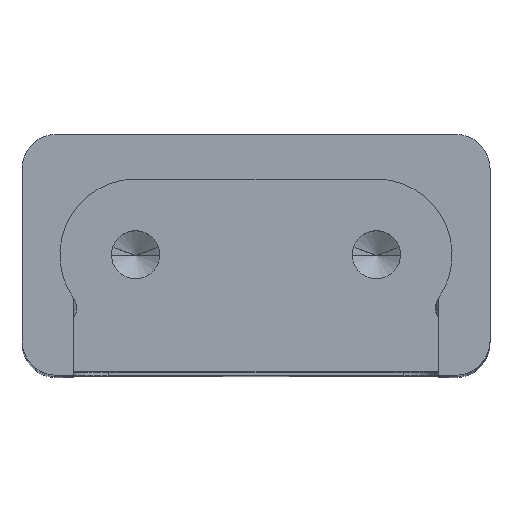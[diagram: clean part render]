
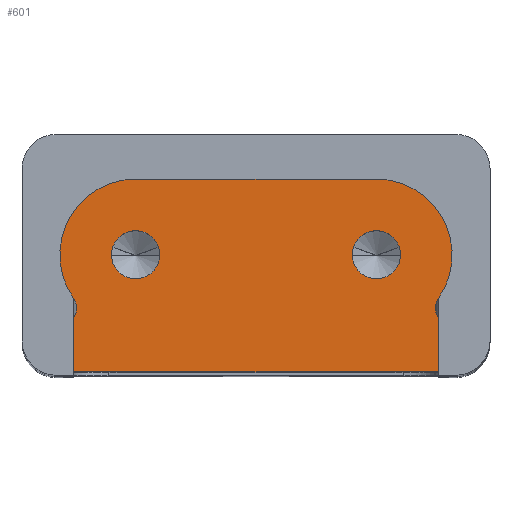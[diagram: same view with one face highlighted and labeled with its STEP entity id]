
A CAD part, top view. The second image highlights one B-rep face of the part: STEP entity #601.
In plain terms, the highlighted planar face has unit normal (0, 0, 1) as drawn and (0, 1, 0) by its records, which use the part's own axes.
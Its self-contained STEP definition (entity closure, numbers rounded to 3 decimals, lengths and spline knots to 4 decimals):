
#146=FACE_BOUND('',#1065,.T.);
#147=FACE_BOUND('',#1066,.T.);
#148=FACE_BOUND('',#1067,.T.);
#431=CIRCLE('',#3786,0.35);
#432=CIRCLE('',#3787,0.35);
#433=CIRCLE('',#3788,1.1);
#434=CIRCLE('',#3789,0.25);
#435=CIRCLE('',#3790,0.25);
#436=CIRCLE('',#3791,1.1);
#601=ADVANCED_FACE('',(#146,#147,#148),#737,.F.);
#737=PLANE('',#3792);
#1065=EDGE_LOOP('',(#1762));
#1066=EDGE_LOOP('',(#1763));
#1067=EDGE_LOOP('',(#1764,#1765,#1766,#1767,#1768,#1769,#1770,#1771));
#1762=ORIENTED_EDGE('',*,*,#2838,.T.);
#1763=ORIENTED_EDGE('',*,*,#2839,.T.);
#1764=ORIENTED_EDGE('',*,*,#2790,.F.);
#1765=ORIENTED_EDGE('',*,*,#2840,.T.);
#1766=ORIENTED_EDGE('',*,*,#2841,.F.);
#1767=ORIENTED_EDGE('',*,*,#2837,.T.);
#1768=ORIENTED_EDGE('',*,*,#2842,.F.);
#1769=ORIENTED_EDGE('',*,*,#2830,.F.);
#1770=ORIENTED_EDGE('',*,*,#2843,.F.);
#1771=ORIENTED_EDGE('',*,*,#2844,.F.);
#2382=VERTEX_POINT('',#5619);
#2383=VERTEX_POINT('',#5621);
#2416=VERTEX_POINT('',#5704);
#2417=VERTEX_POINT('',#5706);
#2419=VERTEX_POINT('',#5712);
#2421=VERTEX_POINT('',#5717);
#2422=VERTEX_POINT('',#5721);
#2423=VERTEX_POINT('',#5723);
#2424=VERTEX_POINT('',#5725);
#2425=VERTEX_POINT('',#5729);
#2790=EDGE_CURVE('',#2382,#2383,#3170,.T.);
#2830=EDGE_CURVE('',#2416,#2417,#3198,.T.);
#2837=EDGE_CURVE('',#2419,#2421,#3205,.T.);
#2838=EDGE_CURVE('',#2422,#2422,#431,.T.);
#2839=EDGE_CURVE('',#2423,#2423,#432,.T.);
#2840=EDGE_CURVE('',#2382,#2424,#433,.T.);
#2841=EDGE_CURVE('',#2419,#2424,#434,.T.);
#2842=EDGE_CURVE('',#2417,#2421,#3206,.T.);
#2843=EDGE_CURVE('',#2425,#2416,#435,.T.);
#2844=EDGE_CURVE('',#2383,#2425,#436,.T.);
#3170=LINE('',#5620,#3441);
#3198=LINE('',#5705,#3469);
#3205=LINE('',#5718,#3476);
#3206=LINE('',#5727,#3477);
#3441=VECTOR('',#4416,1.);
#3469=VECTOR('',#4490,1.);
#3476=VECTOR('',#4499,1.);
#3477=VECTOR('',#4510,1.);
#3786=AXIS2_PLACEMENT_3D('',#5720,#4502,#4503);
#3787=AXIS2_PLACEMENT_3D('',#5722,#4504,#4505);
#3788=AXIS2_PLACEMENT_3D('',#5724,#4506,#4507);
#3789=AXIS2_PLACEMENT_3D('',#5726,#4508,#4509);
#3790=AXIS2_PLACEMENT_3D('',#5728,#4511,#4512);
#3791=AXIS2_PLACEMENT_3D('',#5730,#4513,#4514);
#3792=AXIS2_PLACEMENT_3D('',#5731,#4515,#4516);
#4416=DIRECTION('',(1.,0.,0.));
#4490=DIRECTION('',(0.,0.,1.));
#4499=DIRECTION('',(0.,0.,1.));
#4502=DIRECTION('',(0.,-1.,0.));
#4503=DIRECTION('',(0.,0.,-1.));
#4504=DIRECTION('',(0.,-1.,0.));
#4505=DIRECTION('',(0.,0.,-1.));
#4506=DIRECTION('',(0.,1.,0.));
#4507=DIRECTION('',(-1.,0.,0.));
#4508=DIRECTION('',(0.,1.,0.));
#4509=DIRECTION('',(-1.,0.,0.));
#4510=DIRECTION('',(-1.,0.,0.));
#4511=DIRECTION('',(0.,1.,0.));
#4512=DIRECTION('',(-1.,0.,0.));
#4513=DIRECTION('',(0.,-1.,0.));
#4514=DIRECTION('',(1.,0.,0.));
#4515=DIRECTION('',(0.,-1.,0.));
#4516=DIRECTION('',(0.,0.,-1.));
#5619=CARTESIAN_POINT('',(-1.75,0.,-1.4));
#5620=CARTESIAN_POINT('',(-2.85,0.,-1.4));
#5621=CARTESIAN_POINT('',(1.75,0.,-1.4));
#5704=CARTESIAN_POINT('',(2.65,0.,0.6199));
#5705=CARTESIAN_POINT('',(2.65,0.,-1.4));
#5706=CARTESIAN_POINT('',(2.65,0.,1.4));
#5712=CARTESIAN_POINT('',(-2.65,0.,0.6199));
#5717=CARTESIAN_POINT('',(-2.65,0.,1.4));
#5718=CARTESIAN_POINT('',(-2.65,0.,-1.4));
#5720=CARTESIAN_POINT('',(-1.75,0.,-0.3));
#5721=CARTESIAN_POINT('',(-1.75,0.,-0.65));
#5722=CARTESIAN_POINT('',(1.75,0.,-0.3));
#5723=CARTESIAN_POINT('',(1.75,0.,-0.65));
#5724=CARTESIAN_POINT('',(-1.75,0.,-0.3));
#5725=CARTESIAN_POINT('',(-2.65,0.,0.3325));
#5726=CARTESIAN_POINT('',(-2.8545,0.,0.4762));
#5727=CARTESIAN_POINT('',(2.85,0.,1.4));
#5728=CARTESIAN_POINT('',(2.8545,0.,0.4762));
#5729=CARTESIAN_POINT('',(2.65,0.,0.3325));
#5730=CARTESIAN_POINT('',(1.75,0.,-0.3));
#5731=CARTESIAN_POINT('',(0.,0.,0.));
